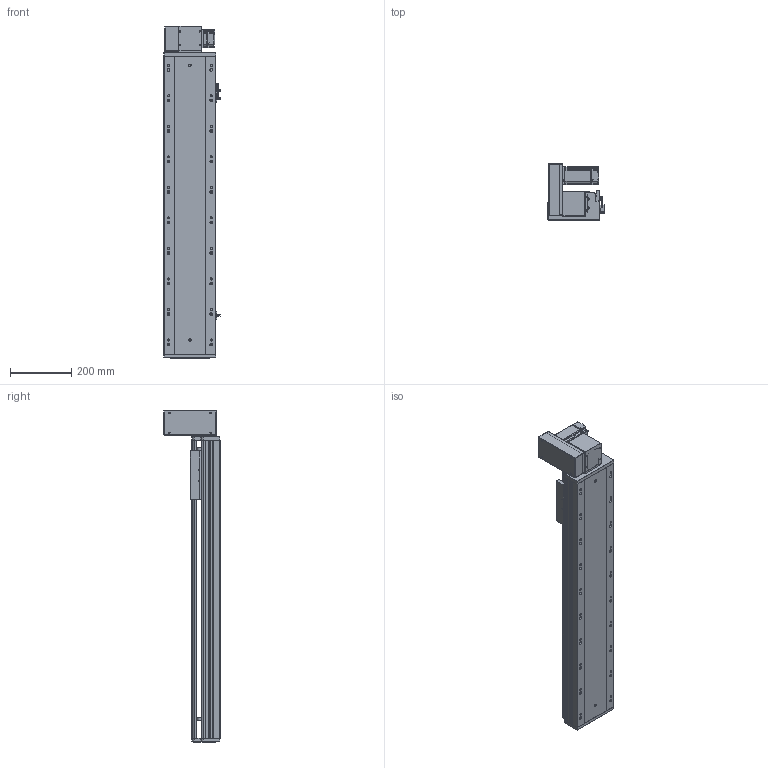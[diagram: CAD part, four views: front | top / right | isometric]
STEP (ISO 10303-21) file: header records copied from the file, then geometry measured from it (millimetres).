
FILE_DESCRIPTION (( 'STEP AP203' ), '1' );
FILE_NAME ('RY170-T-300-UL-P400W.SLDASM_700.step', '2021-03-02T02:12:30', ( '盈信电脑' ), ( '东莞市道滘镇水果街19号' ), 'SwSTEP 2.0', 'SolidWorks 2012', '' );
FILE_SCHEMA (( 'CONFIG_CONTROL_DESIGN' ));
Products named in the file (18): 15; RY170-T-300-UL-P400W.SLDASM_700; RY170肮祭謫萇儂欶; RY120-T主同步轮轴承压盖; RY170同步轮电机安装板(400W); RY170-T蹟翐M4; RY170-T肮祭謫裔啣; RY170-T肮祭湍揤踡輸2; 滅袉蝶18-10; RY170-T肮祭湍揤踡輸1; RY170翋肮祭謫釱; RY170肮祭謫ヶ裔啣; RY170外置感应片(200共用）; RY170-T-300肮祭謫倰第裔啣-DL_700; 覜茼ん672; RY170綴裔啣; RY170肮祭湍臏賑輸; RY170-T-300肮祭謫倰第菁釱-DL_700
Assembly tree (20 placements, depth 2):
  RY170-T-300-UL-P400W.SLDASM_700
    RY170-T-300肮祭謫倰第菁釱-DL_700
    RY170肮祭湍臏賑輸
    RY170-T-300肮祭謫倰第裔啣-DL_700
    RY170綴裔啣
    覜茼ん672  x3
    RY170外置感应片(200共用）
    RY170肮祭謫ヶ裔啣
    RY170翋肮祭謫釱
    RY170-T肮祭湍揤踡輸1
    RY170-T肮祭湍揤踡輸2
    RY170-T肮祭謫裔啣
    滅袉蝶18-10  x2
    RY120-T主同步轮轴承压盖
    RY170肮祭謫萇儂欶
    RY170同步轮电机安装板(400W)
    RY170-T蹟翐M4
    15
Bounding box: 183.7 x 184 x 1088 mm (x, y, z)
Volume: 5607846.4 mm3; surface area: 1883295.3 mm2
Topology: 20 solids, 20 shells, 2609 faces, 7350 edges, 4725 vertices
Faces by surface type: cylinder 1208, plane 1151, cone 220, bspline 30
Entity records: 84504 total; most frequent: CARTESIAN_POINT 19471, ORIENTED_EDGE 13376, DIRECTION 12960, EDGE_CURVE 6688, AXIS2_PLACEMENT_3D 4556, VERTEX_POINT 4393, VECTOR 3848, LINE 3848
